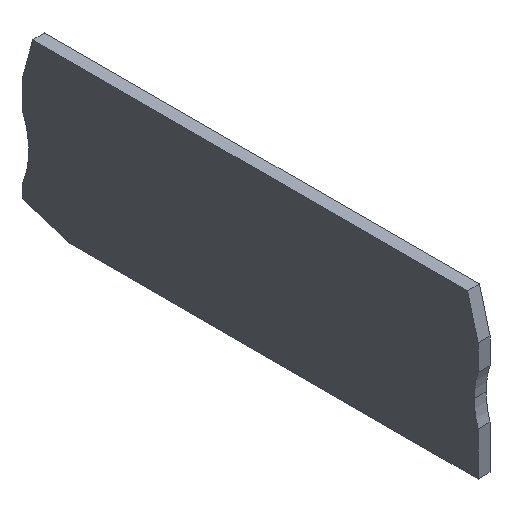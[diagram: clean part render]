
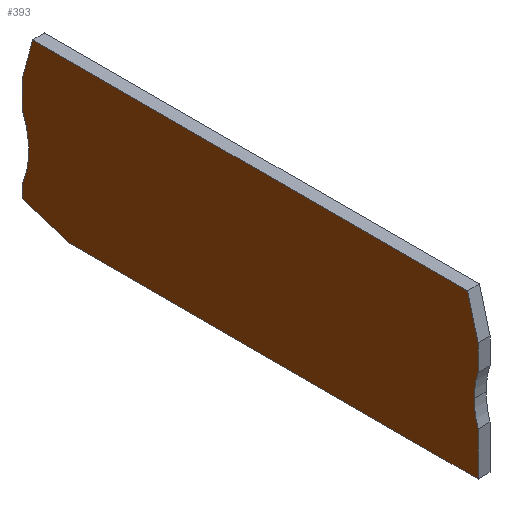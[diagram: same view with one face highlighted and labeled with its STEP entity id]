
A CAD part, isometric view. The second image highlights one B-rep face of the part: STEP entity #393.
In plain terms, the highlighted planar face has unit normal (-1, 0, 0).
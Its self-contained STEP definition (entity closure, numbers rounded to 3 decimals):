
#209=CARTESIAN_POINT('',(0.,0.,17.));
#210=VERTEX_POINT('',#209);
#218=CARTESIAN_POINT('',(0.,0.,21.734));
#219=VERTEX_POINT('',#218);
#226=CARTESIAN_POINT('',(-0.,0.,21.734));
#227=DIRECTION('',(0.,-0.,-1.));
#228=VECTOR('',#227,4.734);
#229=LINE('',#226,#228);
#230=EDGE_CURVE('',#219,#210,#229,.T.);
#241=CARTESIAN_POINT('',(0.,75.312,0.));
#242=VERTEX_POINT('',#241);
#249=CARTESIAN_POINT('',(0.,84.,2.706));
#250=VERTEX_POINT('',#249);
#251=CARTESIAN_POINT('',(0.,75.312,-0.));
#252=DIRECTION('',(0.,0.955,0.297));
#253=VECTOR('',#252,9.099);
#254=LINE('',#251,#253);
#255=EDGE_CURVE('',#242,#250,#254,.T.);
#271=CARTESIAN_POINT('',(0.,84.,17.));
#272=VERTEX_POINT('',#271);
#279=CARTESIAN_POINT('',(0.,84.,21.734));
#280=VERTEX_POINT('',#279);
#281=CARTESIAN_POINT('',(0.,84.,17.));
#282=DIRECTION('',(-0.,0.,1.));
#283=VECTOR('',#282,4.734);
#284=LINE('',#281,#283);
#285=EDGE_CURVE('',#272,#280,#284,.T.);
#304=CARTESIAN_POINT('',(-0.,82.04,29.05));
#305=VERTEX_POINT('',#304);
#306=CARTESIAN_POINT('',(0.,84.,21.734));
#307=DIRECTION('',(-0.,-0.259,0.966));
#308=VECTOR('',#307,7.574);
#309=LINE('',#306,#308);
#310=EDGE_CURVE('',#280,#305,#309,.T.);
#321=CARTESIAN_POINT('',(0.,24.182,28.333));
#322=DIRECTION('',(-1.,0.,-0.));
#323=DIRECTION('',(-0.,-1.,0.));
#324=AXIS2_PLACEMENT_3D('',#321,#322,#323);
#325=PLANE('',#324);
#326=CARTESIAN_POINT('',(0.,84.,5.));
#327=VERTEX_POINT('',#326);
#328=CARTESIAN_POINT('',(0.,97.748,11.));
#329=DIRECTION('',(1.,-0.,0.));
#330=DIRECTION('',(0.,1.,-0.));
#331=AXIS2_PLACEMENT_3D('',#328,#329,#330);
#332=CIRCLE('',#331,15.);
#333=EDGE_CURVE('',#272,#327,#332,.T.);
#334=ORIENTED_EDGE('',*,*,#333,.T.);
#335=CARTESIAN_POINT('',(0.,84.,2.706));
#336=DIRECTION('',(-0.,0.,1.));
#337=VECTOR('',#336,2.294);
#338=LINE('',#335,#337);
#339=EDGE_CURVE('',#250,#327,#338,.T.);
#340=ORIENTED_EDGE('',*,*,#339,.F.);
#341=ORIENTED_EDGE('',*,*,#255,.F.);
#342=CARTESIAN_POINT('',(0.,0.,0.));
#343=VERTEX_POINT('',#342);
#344=CARTESIAN_POINT('',(0.,0.,0.));
#345=DIRECTION('',(0.,1.,-0.));
#346=VECTOR('',#345,75.312);
#347=LINE('',#344,#346);
#348=EDGE_CURVE('',#343,#242,#347,.T.);
#349=ORIENTED_EDGE('',*,*,#348,.F.);
#350=CARTESIAN_POINT('',(0.,-0.,8.));
#351=VERTEX_POINT('',#350);
#352=CARTESIAN_POINT('',(-0.,0.,8.));
#353=DIRECTION('',(0.,-0.,-1.));
#354=VECTOR('',#353,8.);
#355=LINE('',#352,#354);
#356=EDGE_CURVE('',#351,#343,#355,.T.);
#357=ORIENTED_EDGE('',*,*,#356,.F.);
#358=CARTESIAN_POINT('',(0.,0.691,12.5));
#359=VERTEX_POINT('',#358);
#360=CARTESIAN_POINT('',(0.,-14.309,12.5));
#361=DIRECTION('',(1.,-0.,0.));
#362=DIRECTION('',(0.,1.,-0.));
#363=AXIS2_PLACEMENT_3D('',#360,#361,#362);
#364=CIRCLE('',#363,15.);
#365=EDGE_CURVE('',#351,#359,#364,.T.);
#366=ORIENTED_EDGE('',*,*,#365,.T.);
#367=CARTESIAN_POINT('',(0.,-14.309,12.5));
#368=DIRECTION('',(1.,-0.,0.));
#369=DIRECTION('',(0.,1.,-0.));
#370=AXIS2_PLACEMENT_3D('',#367,#368,#369);
#371=CIRCLE('',#370,15.);
#372=EDGE_CURVE('',#359,#210,#371,.T.);
#373=ORIENTED_EDGE('',*,*,#372,.T.);
#374=ORIENTED_EDGE('',*,*,#230,.F.);
#375=CARTESIAN_POINT('',(-0.,1.96,29.05));
#376=VERTEX_POINT('',#375);
#377=CARTESIAN_POINT('',(-0.,1.96,29.05));
#378=DIRECTION('',(0.,-0.259,-0.966));
#379=VECTOR('',#378,7.574);
#380=LINE('',#377,#379);
#381=EDGE_CURVE('',#376,#219,#380,.T.);
#382=ORIENTED_EDGE('',*,*,#381,.F.);
#383=CARTESIAN_POINT('',(-0.,82.04,29.05));
#384=DIRECTION('',(-0.,-1.,0.));
#385=VECTOR('',#384,80.08);
#386=LINE('',#383,#385);
#387=EDGE_CURVE('',#305,#376,#386,.T.);
#388=ORIENTED_EDGE('',*,*,#387,.F.);
#389=ORIENTED_EDGE('',*,*,#310,.F.);
#390=ORIENTED_EDGE('',*,*,#285,.F.);
#391=EDGE_LOOP('',(#334,#340,#341,#349,#357,#366,#373,#374,#382,#388,#389,#390));
#392=FACE_BOUND('',#391,.T.);
#393=ADVANCED_FACE('',(#392),#325,.T.);
